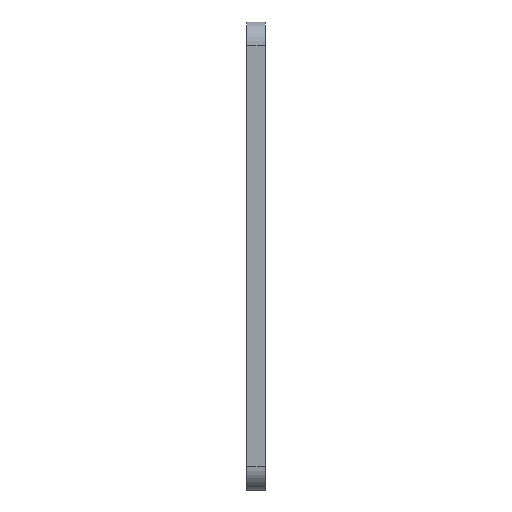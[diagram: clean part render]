
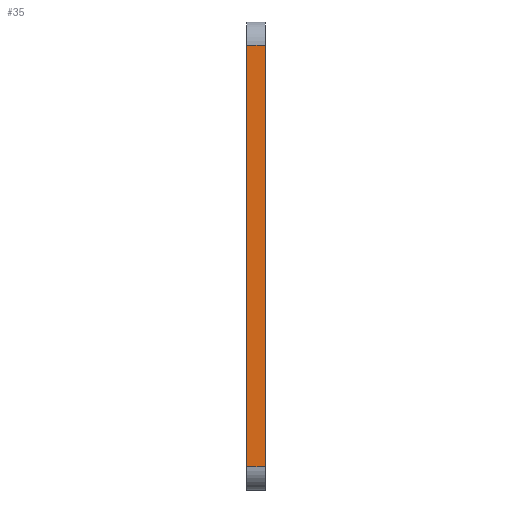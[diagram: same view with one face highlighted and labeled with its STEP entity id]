
A CAD part, left-side view. The second image highlights one B-rep face of the part: STEP entity #35.
In plain terms, the highlighted planar face has unit normal (-1, 0, 0).
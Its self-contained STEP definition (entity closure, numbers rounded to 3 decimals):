
#35 = ADVANCED_FACE('',(#36),#50,.F.);
#36 = FACE_BOUND('',#37,.F.);
#37 = EDGE_LOOP('',(#38,#73,#101,#129));
#38 = ORIENTED_EDGE('',*,*,#39,.F.);
#39 = EDGE_CURVE('',#40,#42,#44,.T.);
#40 = VERTEX_POINT('',#41);
#41 = CARTESIAN_POINT('',(-15.,36.6,65.));
#42 = VERTEX_POINT('',#43);
#43 = CARTESIAN_POINT('',(-15.,36.6,47.));
#44 = SURFACE_CURVE('',#45,(#49,#61),.PCURVE_S1.);
#45 = LINE('',#46,#47);
#46 = CARTESIAN_POINT('',(-15.,36.6,66.));
#47 = VECTOR('',#48,1.);
#48 = DIRECTION('',(0.,0.,-1.));
#49 = PCURVE('',#50,#55);
#50 = PLANE('',#51);
#51 = AXIS2_PLACEMENT_3D('',#52,#53,#54);
#52 = CARTESIAN_POINT('',(-15.,35.8,66.));
#53 = DIRECTION('',(1.,0.,0.));
#54 = DIRECTION('',(0.,1.,0.));
#55 = DEFINITIONAL_REPRESENTATION('',(#56),#60);
#56 = LINE('',#57,#58);
#57 = CARTESIAN_POINT('',(0.8,0.));
#58 = VECTOR('',#59,1.);
#59 = DIRECTION('',(0.,-1.));
#60 = ( GEOMETRIC_REPRESENTATION_CONTEXT(2) 
PARAMETRIC_REPRESENTATION_CONTEXT() REPRESENTATION_CONTEXT('2D SPACE',''
  ) );
#61 = PCURVE('',#62,#67);
#62 = PLANE('',#63);
#63 = AXIS2_PLACEMENT_3D('',#64,#65,#66);
#64 = CARTESIAN_POINT('',(-15.,36.6,66.));
#65 = DIRECTION('',(0.,1.,0.));
#66 = DIRECTION('',(1.,0.,0.));
#67 = DEFINITIONAL_REPRESENTATION('',(#68),#72);
#68 = LINE('',#69,#70);
#69 = CARTESIAN_POINT('',(0.,0.));
#70 = VECTOR('',#71,1.);
#71 = DIRECTION('',(0.,1.));
#72 = ( GEOMETRIC_REPRESENTATION_CONTEXT(2) 
PARAMETRIC_REPRESENTATION_CONTEXT() REPRESENTATION_CONTEXT('2D SPACE',''
  ) );
#73 = ORIENTED_EDGE('',*,*,#74,.F.);
#74 = EDGE_CURVE('',#75,#40,#77,.T.);
#75 = VERTEX_POINT('',#76);
#76 = CARTESIAN_POINT('',(-15.,35.8,65.));
#77 = SURFACE_CURVE('',#78,(#82,#89),.PCURVE_S1.);
#78 = LINE('',#79,#80);
#79 = CARTESIAN_POINT('',(-15.,35.8,65.));
#80 = VECTOR('',#81,1.);
#81 = DIRECTION('',(0.,1.,0.));
#82 = PCURVE('',#50,#83);
#83 = DEFINITIONAL_REPRESENTATION('',(#84),#88);
#84 = LINE('',#85,#86);
#85 = CARTESIAN_POINT('',(0.,-1.));
#86 = VECTOR('',#87,1.);
#87 = DIRECTION('',(1.,0.));
#88 = ( GEOMETRIC_REPRESENTATION_CONTEXT(2) 
PARAMETRIC_REPRESENTATION_CONTEXT() REPRESENTATION_CONTEXT('2D SPACE',''
  ) );
#89 = PCURVE('',#90,#95);
#90 = CYLINDRICAL_SURFACE('',#91,1.);
#91 = AXIS2_PLACEMENT_3D('',#92,#93,#94);
#92 = CARTESIAN_POINT('',(-14.,35.8,65.));
#93 = DIRECTION('',(0.,1.,0.));
#94 = DIRECTION('',(-1.,0.,0.));
#95 = DEFINITIONAL_REPRESENTATION('',(#96),#100);
#96 = LINE('',#97,#98);
#97 = CARTESIAN_POINT('',(0.,0.));
#98 = VECTOR('',#99,1.);
#99 = DIRECTION('',(0.,1.));
#100 = ( GEOMETRIC_REPRESENTATION_CONTEXT(2) 
PARAMETRIC_REPRESENTATION_CONTEXT() REPRESENTATION_CONTEXT('2D SPACE',''
  ) );
#101 = ORIENTED_EDGE('',*,*,#102,.T.);
#102 = EDGE_CURVE('',#75,#103,#105,.T.);
#103 = VERTEX_POINT('',#104);
#104 = CARTESIAN_POINT('',(-15.,35.8,47.));
#105 = SURFACE_CURVE('',#106,(#110,#117),.PCURVE_S1.);
#106 = LINE('',#107,#108);
#107 = CARTESIAN_POINT('',(-15.,35.8,66.));
#108 = VECTOR('',#109,1.);
#109 = DIRECTION('',(0.,0.,-1.));
#110 = PCURVE('',#50,#111);
#111 = DEFINITIONAL_REPRESENTATION('',(#112),#116);
#112 = LINE('',#113,#114);
#113 = CARTESIAN_POINT('',(0.,0.));
#114 = VECTOR('',#115,1.);
#115 = DIRECTION('',(0.,-1.));
#116 = ( GEOMETRIC_REPRESENTATION_CONTEXT(2) 
PARAMETRIC_REPRESENTATION_CONTEXT() REPRESENTATION_CONTEXT('2D SPACE',''
  ) );
#117 = PCURVE('',#118,#123);
#118 = PLANE('',#119);
#119 = AXIS2_PLACEMENT_3D('',#120,#121,#122);
#120 = CARTESIAN_POINT('',(-15.,35.8,66.));
#121 = DIRECTION('',(0.,1.,0.));
#122 = DIRECTION('',(1.,0.,0.));
#123 = DEFINITIONAL_REPRESENTATION('',(#124),#128);
#124 = LINE('',#125,#126);
#125 = CARTESIAN_POINT('',(0.,0.));
#126 = VECTOR('',#127,1.);
#127 = DIRECTION('',(0.,1.));
#128 = ( GEOMETRIC_REPRESENTATION_CONTEXT(2) 
PARAMETRIC_REPRESENTATION_CONTEXT() REPRESENTATION_CONTEXT('2D SPACE',''
  ) );
#129 = ORIENTED_EDGE('',*,*,#130,.T.);
#130 = EDGE_CURVE('',#103,#42,#131,.T.);
#131 = SURFACE_CURVE('',#132,(#136,#143),.PCURVE_S1.);
#132 = LINE('',#133,#134);
#133 = CARTESIAN_POINT('',(-15.,35.8,47.));
#134 = VECTOR('',#135,1.);
#135 = DIRECTION('',(0.,1.,0.));
#136 = PCURVE('',#50,#137);
#137 = DEFINITIONAL_REPRESENTATION('',(#138),#142);
#138 = LINE('',#139,#140);
#139 = CARTESIAN_POINT('',(0.,-19.));
#140 = VECTOR('',#141,1.);
#141 = DIRECTION('',(1.,0.));
#142 = ( GEOMETRIC_REPRESENTATION_CONTEXT(2) 
PARAMETRIC_REPRESENTATION_CONTEXT() REPRESENTATION_CONTEXT('2D SPACE',''
  ) );
#143 = PCURVE('',#144,#149);
#144 = CYLINDRICAL_SURFACE('',#145,1.);
#145 = AXIS2_PLACEMENT_3D('',#146,#147,#148);
#146 = CARTESIAN_POINT('',(-14.,35.8,47.));
#147 = DIRECTION('',(0.,1.,0.));
#148 = DIRECTION('',(-1.,0.,0.));
#149 = DEFINITIONAL_REPRESENTATION('',(#150),#154);
#150 = LINE('',#151,#152);
#151 = CARTESIAN_POINT('',(-0.,0.));
#152 = VECTOR('',#153,1.);
#153 = DIRECTION('',(-0.,1.));
#154 = ( GEOMETRIC_REPRESENTATION_CONTEXT(2) 
PARAMETRIC_REPRESENTATION_CONTEXT() REPRESENTATION_CONTEXT('2D SPACE',''
  ) );
